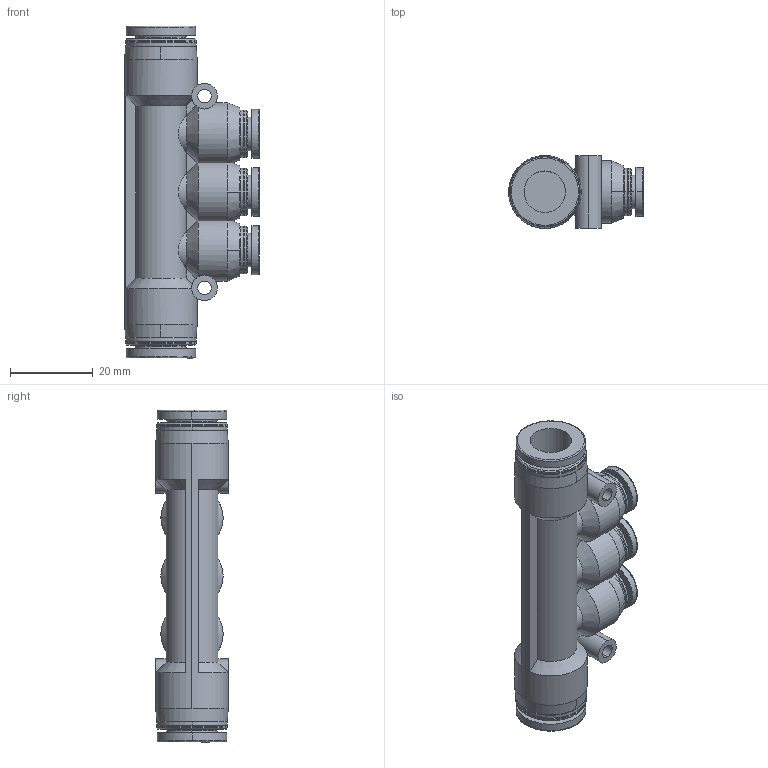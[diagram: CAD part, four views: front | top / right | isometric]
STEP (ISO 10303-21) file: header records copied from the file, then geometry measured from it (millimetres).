
FILE_DESCRIPTION (( 'STEP AP214' ), '1' );
FILE_NAME ('APKG10-6.STEP', '2019-12-06T01:21:49', ( '微软用户' ), ( '微软中国' ), 'SwSTEP 2.0', 'SolidWorks 2016', '' );
FILE_SCHEMA (( 'AUTOMOTIVE_DESIGN' ));
Length unit declared in the file: millimetre
Products named in the file (1): APKG10-6
Bounding box: 32.5 x 17.5 x 80 mm (x, y, z)
Volume: 17411.5 mm3; surface area: 10627.3 mm2
Topology: 1 solids, 1 shells, 196 faces, 474 edges, 300 vertices
Faces by surface type: cylinder 73, cone 64, plane 39, bspline 20
Entity records: 7212 total; most frequent: CARTESIAN_POINT 2625, DIRECTION 992, ORIENTED_EDGE 948, EDGE_CURVE 474, AXIS2_PLACEMENT_3D 423, VERTEX_POINT 300, CIRCLE 246, EDGE_LOOP 220
